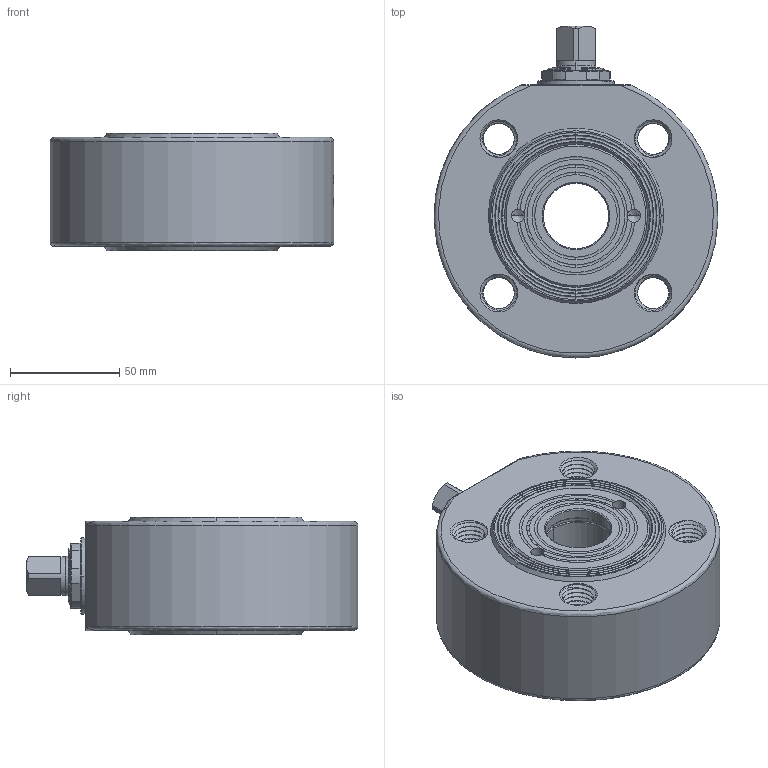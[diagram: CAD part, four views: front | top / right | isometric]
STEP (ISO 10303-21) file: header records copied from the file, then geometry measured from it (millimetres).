
FILE_DESCRIPTION((''),'2;1');
FILE_NAME('42305063010_SW0002','2024-12-05T10:21:30',('alfio.taboni'),('CDM Tecnoconsulting'),'CREO PARAMETRIC BY PTC INC, 2024063','CREO PARAMETRIC BY PTC INC, 2024063','');
FILE_SCHEMA(('CONFIG_CONTROL_DESIGN','SHAPE_APPEARANCE_LAYERS_GROUPS'));
Products named in the file (1): 42305063010_SW0002
Bounding box: 129.97 x 152 x 54 mm (x, y, z)
Volume: 592621.3 mm3; surface area: 87261.3 mm2
Topology: 1 solids, 1 shells, 873 faces, 2371 edges, 1511 vertices
Faces by surface type: cylinder 346, plane 174, bspline 161, cone 88, extrusion 56, torus 36, sphere 12
Entity records: 98572 total; most frequent: CARTESIAN_POINT 67231, ORIENTED_EDGE 4698, DIRECTION 3050, PRESENTATION_STYLE_ASSIGNMENT 3043, STYLED_ITEM 2406, CURVE_STYLE 2405, EDGE_CURVE 2349, VERTEX_POINT 1511
